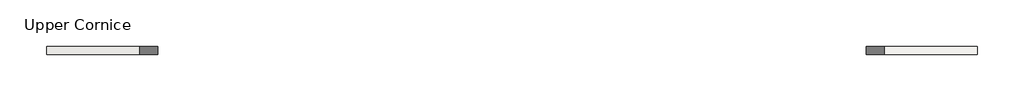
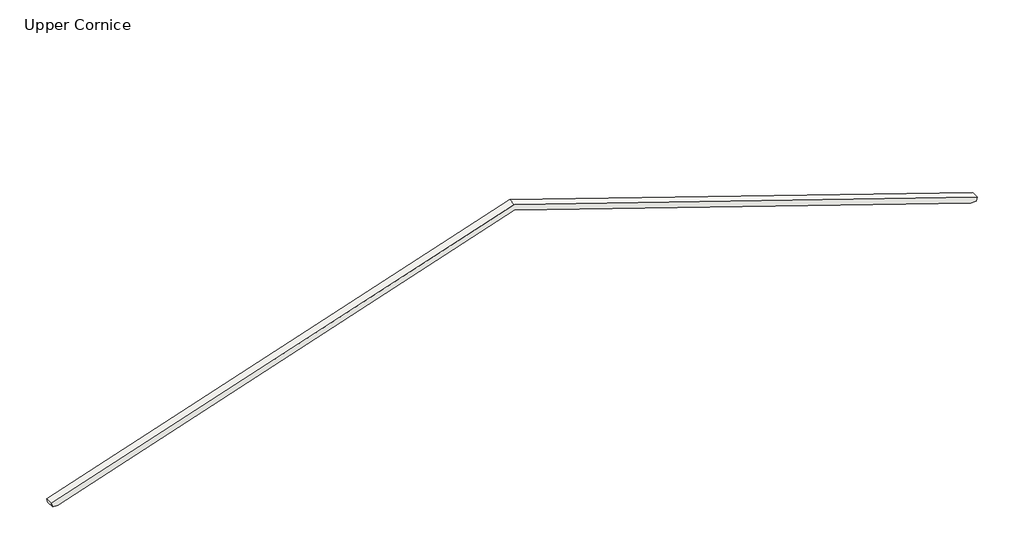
# One storey: 1 roof.
"""IFC4 building model written with IfcOpenShell, lengths in millimetres."""

from ifc_helpers import new_model, si_unit, frame, origin, place, context, project, spatial, polyline, outline, extrude, element, save

model = new_model("IFC4")

# Units and contexts
model_context = context("Model", 3, world=origin())
ifc_project = project(units=[si_unit("LENGTHUNIT", "METRE", prefix="MILLI")], contexts=[model_context])

# Site, building, storey
site = spatial("IfcSite", under=ifc_project)
building = spatial("IfcBuilding", under=site)
storey = spatial("IfcBuildingStorey", under=building, Name="Upper Cornice", Elevation=21691.6)

# Roof
placement = place(None, origin())
element("IfcRoof", 1, ObjectType="Portico Roof", at=placement, inside=storey, context=model_context, shape_type="SweptSolid", body=[
    extrude(outline(polyline([(21618.8525038, -14268.3942618), (27203.4, 2485.2482268), (21618.8525038, 19238.8907154), (21618.8525038, 19429.6551152), (21763.4318384, 19477.8482268), (27427.6318384, 2485.2482268), (21763.4318384, -14507.3517732), (21618.8525038, -14459.1586617), (21618.8525038, -14268.3942618)])), frame((0.0, -31396.680615, 0.0), z_axis=(0.0, 1.0, 0.0), x_axis=(0.0, 0.0, 1.0)), (0.0, 0.0, 1.0), 304.8),
])

save(model, "model.ifc")
